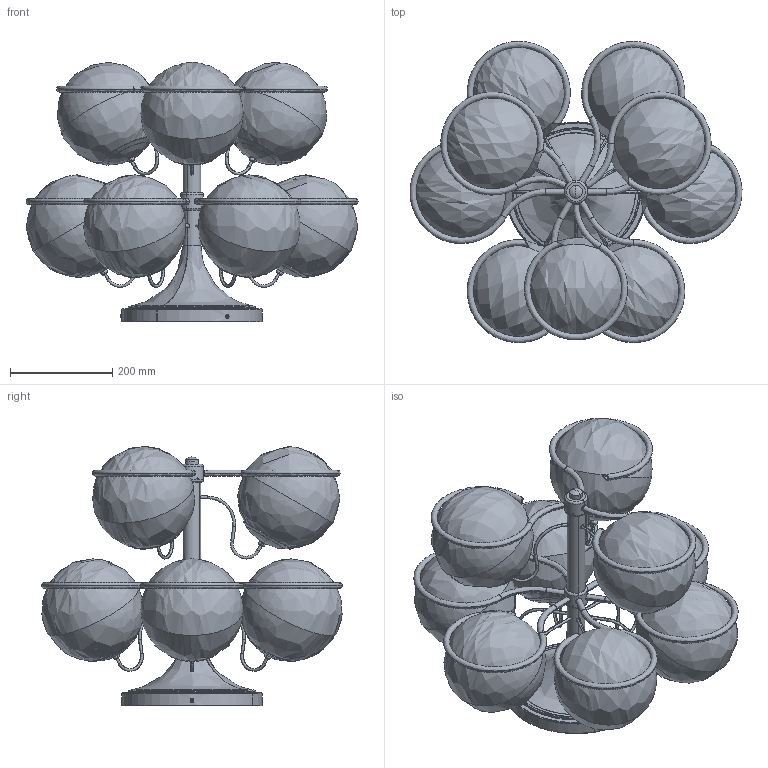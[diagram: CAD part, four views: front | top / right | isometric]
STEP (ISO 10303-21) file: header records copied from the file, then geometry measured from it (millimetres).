
FILE_DESCRIPTION(/* description */ (''),/* implementation_level */ '2;1');
FILE_NAME(/* name */ 'Model 2042:9',/* time_stamp */ '2022-06-21T11:01:22+02:00',/* author */ (''),/* organization */ (''),/* preprocessor_version */ 'ST-DEVELOPER v16.5',/* originating_system */ '',/* authorisation */ '');
FILE_SCHEMA (('AUTOMOTIVE_DESIGN'));
Length unit declared in the file: millimetre
Products named in the file (1): Document
Bounding box: 649.83 x 589.98 x 507.15 mm (x, y, z)
Volume: 5075374.6 mm3; surface area: 3096268.7 mm2
Topology: 67 solids, 67 shells, 972 faces, 2241 edges, 1353 vertices
Faces by surface type: bspline 462, cylinder 299, plane 211
Full cylindrical faces by diameter (mm): 4 x3
Entity records: 40305 total; most frequent: CARTESIAN_POINT 25911, ORIENTED_EDGE 4306, EDGE_CURVE 2153, VERTEX_POINT 1353, EDGE_LOOP 1118, B_SPLINE_CURVE_WITH_KNOTS 1060, ADVANCED_FACE 972, FACE_OUTER_BOUND 972
